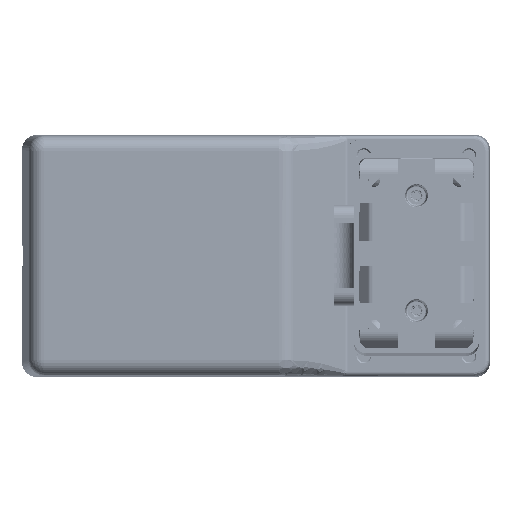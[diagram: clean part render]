
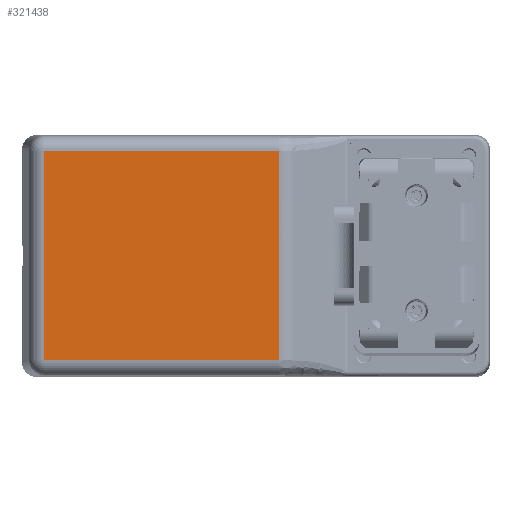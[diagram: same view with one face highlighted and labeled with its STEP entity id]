
A CAD part, top view. The second image highlights one B-rep face of the part: STEP entity #321438.
In plain terms, the highlighted planar face has unit normal (0, 0, 1).
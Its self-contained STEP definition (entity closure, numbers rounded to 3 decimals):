
#271955=DIRECTION('',(1.,0.,0.));
#271956=VECTOR('',#271955,94.057);
#271957=CARTESIAN_POINT('',(54.814,-41.847,23.5));
#271958=LINE('',#271957,#271956);
#271959=CARTESIAN_POINT('',(54.814,-41.847,23.5));
#271994=DIRECTION('',(0.,-1.,0.));
#271995=VECTOR('',#271994,83.694);
#271996=CARTESIAN_POINT('',(54.814,41.847,23.5));
#271997=LINE('',#271996,#271995);
#272015=CARTESIAN_POINT('',(54.814,41.847,23.5));
#287314=DIRECTION('',(0.,-1.,0.));
#287315=VECTOR('',#287314,83.694);
#287316=CARTESIAN_POINT('',(148.871,41.847,23.5));
#287317=LINE('',#287316,#287315);
#287318=DIRECTION('',(-1.,0.,0.));
#287319=VECTOR('',#287318,94.057);
#287320=CARTESIAN_POINT('',(148.871,41.847,23.5));
#287321=LINE('',#287320,#287319);
#289798=VERTEX_POINT('',#272015);
#289800=VERTEX_POINT('',#271959);
#291830=CARTESIAN_POINT('',(148.871,-41.847,23.5));
#291832=VERTEX_POINT('',#291830);
#291833=CARTESIAN_POINT('',(148.871,41.847,23.5));
#291835=VERTEX_POINT('',#291833);
#321426=CARTESIAN_POINT('',(51.5,-48.,23.5));
#321427=DIRECTION('',(0.,0.,1.));
#321428=DIRECTION('',(1.,0.,0.));
#321429=AXIS2_PLACEMENT_3D('',#321426,#321427,#321428);
#321430=PLANE('',#321429);
#321431=ORIENTED_EDGE('',*,*,#321417,.T.);
#321432=ORIENTED_EDGE('',*,*,#293829,.F.);
#321433=ORIENTED_EDGE('',*,*,#293915,.F.);
#321435=ORIENTED_EDGE('',*,*,#321434,.F.);
#321436=EDGE_LOOP('',(#321431,#321432,#321433,#321435));
#321437=FACE_OUTER_BOUND('',#321436,.F.);
#293829=EDGE_CURVE('',#289800,#291832,#271958,.T.);
#293915=EDGE_CURVE('',#289798,#289800,#271997,.T.);
#321417=EDGE_CURVE('',#291835,#291832,#287317,.T.);
#321434=EDGE_CURVE('',#291835,#289798,#287321,.T.);
#321438=ADVANCED_FACE('',(#321437),#321430,.T.);
